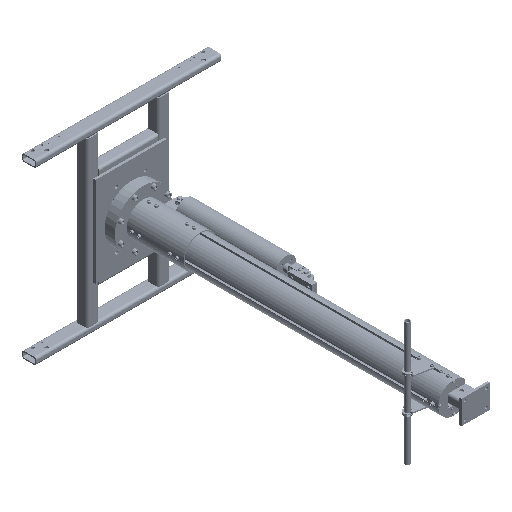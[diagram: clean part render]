
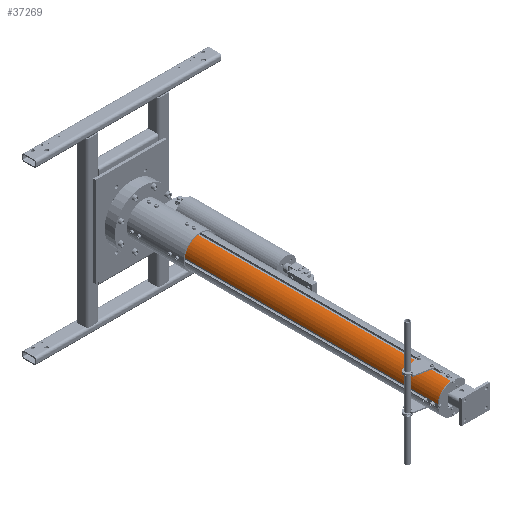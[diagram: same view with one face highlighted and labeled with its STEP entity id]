
A CAD part, isometric view. The second image highlights one B-rep face of the part: STEP entity #37269.
In plain terms, the highlighted cylindrical face has radius 82.55 mm (diameter 165.1 mm), a partial arc.
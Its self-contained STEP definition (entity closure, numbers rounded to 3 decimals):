
#32456=FACE_OUTER_BOUND('',#49790,.T.);
#34801=CYLINDRICAL_SURFACE('',#95522,82.55);
#37269=ADVANCED_FACE('',(#32456),#34801,.T.);
#42645=CIRCLE('',#95520,82.55);
#42646=CIRCLE('',#95521,82.55);
#49790=EDGE_LOOP('',(#58439,#58440,#58441,#58442));
#58439=ORIENTED_EDGE('',*,*,#78949,.T.);
#58440=ORIENTED_EDGE('',*,*,#78950,.F.);
#58441=ORIENTED_EDGE('',*,*,#78951,.F.);
#58442=ORIENTED_EDGE('',*,*,#78947,.T.);
#72050=VERTEX_POINT('',#125550);
#72051=VERTEX_POINT('',#125552);
#72052=VERTEX_POINT('',#125556);
#72053=VERTEX_POINT('',#125558);
#78947=EDGE_CURVE('',#72051,#72050,#86399,.T.);
#78949=EDGE_CURVE('',#72050,#72052,#42645,.T.);
#78950=EDGE_CURVE('',#72053,#72052,#86401,.T.);
#78951=EDGE_CURVE('',#72051,#72053,#42646,.T.);
#86399=LINE('',#125551,#90601);
#86401=LINE('',#125557,#90603);
#90601=VECTOR('',#106974,1.);
#90603=VECTOR('',#106980,1.);
#95520=AXIS2_PLACEMENT_3D('',#125555,#106978,#106979);
#95521=AXIS2_PLACEMENT_3D('',#125559,#106981,#106982);
#95522=AXIS2_PLACEMENT_3D('',#125560,#106983,#106984);
#106974=DIRECTION('',(0.,-1.,0.));
#106978=DIRECTION('',(0.,1.,0.));
#106979=DIRECTION('',(0.,0.,-1.));
#106980=DIRECTION('',(0.,-1.,0.));
#106981=DIRECTION('',(0.,1.,0.));
#106982=DIRECTION('',(0.,0.,-1.));
#106983=DIRECTION('',(0.,-1.,0.));
#106984=DIRECTION('',(0.,0.,1.));
#125550=CARTESIAN_POINT('',(-81.799,-1694.225,11.112));
#125551=CARTESIAN_POINT('',(-81.799,-43.225,11.112));
#125552=CARTESIAN_POINT('',(-81.799,-43.225,11.112));
#125555=CARTESIAN_POINT('',(0.,-1694.225,0.));
#125556=CARTESIAN_POINT('',(-11.112,-1694.225,81.799));
#125557=CARTESIAN_POINT('',(-11.112,-43.225,81.799));
#125558=CARTESIAN_POINT('',(-11.112,-43.225,81.799));
#125559=CARTESIAN_POINT('',(0.,-43.225,0.));
#125560=CARTESIAN_POINT('',(0.,-43.225,0.));
